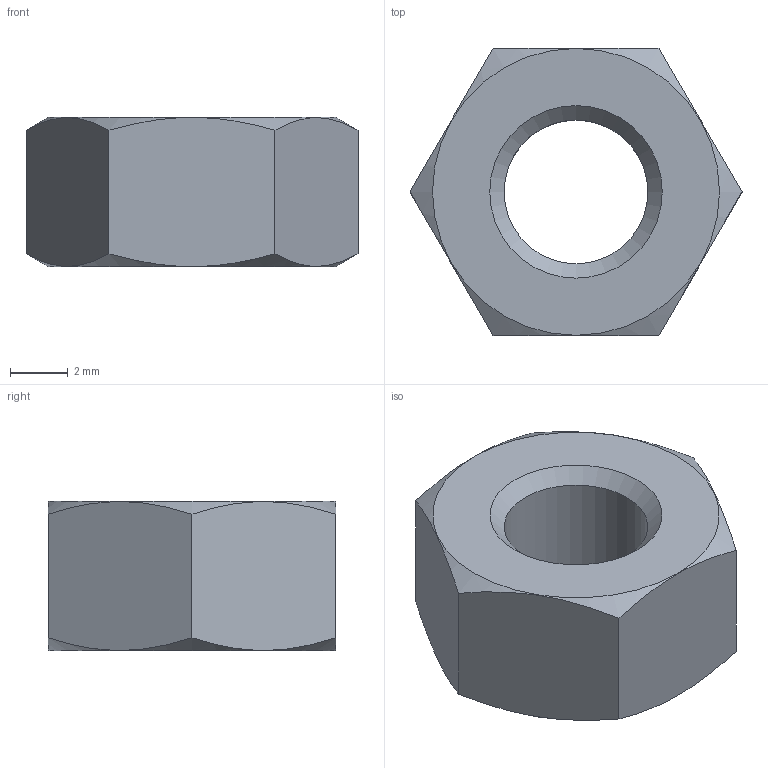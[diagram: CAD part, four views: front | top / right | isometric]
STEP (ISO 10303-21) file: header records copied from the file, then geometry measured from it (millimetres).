
FILE_DESCRIPTION( ( 'Unknown' ), '1' );
FILE_NAME( 'E:/-=Projekty=-/Projekty PKM/Solid Edge Standard Parts/nakrętki 4032/M6_PN-EN-ISO 4032_2004.stp', 'Unknown', ( 'Unknown' ), ( 'Unknown' ), 'PSStep 14.0', 'Unknown', ' ' );
FILE_SCHEMA( ( 'AUTOMOTIVE_DESIGN { 1 0 10303 214 1 1 1 1 }' ) );
Length unit declared in the file: millimetre
Products named in the file (1): 1
Bounding box: 11.55 x 10 x 5.2 mm (x, y, z)
Volume: 341.8 mm3; surface area: 378.8 mm2
Topology: 1 solids, 1 shells, 13 faces, 29 edges, 18 vertices
Faces by surface type: plane 8, cone 4, cylinder 1
Full cylindrical faces by diameter (mm): 5 x1
Entity records: 540 total; most frequent: CARTESIAN_POINT 164, ORIENTED_EDGE 48, DIRECTION 46, EDGE_CURVE 24, AXIS2_PLACEMENT_3D 20, EDGE_LOOP 20, VERTEX_POINT 18, FACE_OUTER_BOUND 14
